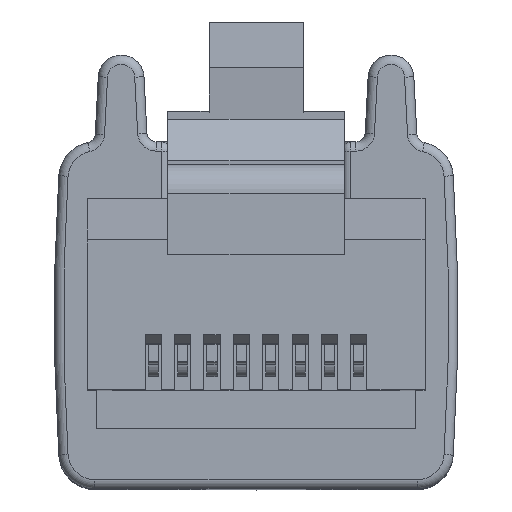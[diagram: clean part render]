
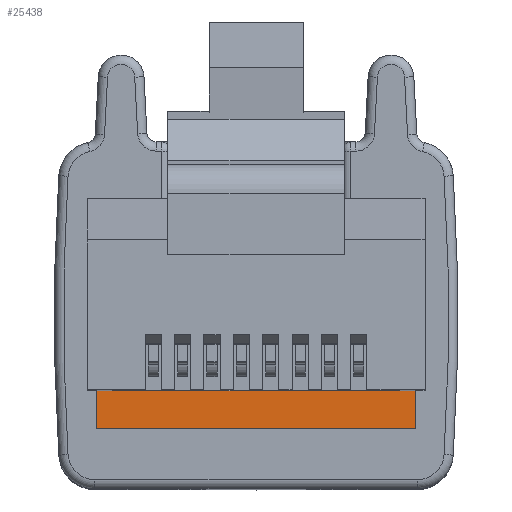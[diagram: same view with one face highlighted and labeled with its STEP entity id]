
A CAD part, top view. The second image highlights one B-rep face of the part: STEP entity #25438.
In plain terms, the highlighted planar face has unit normal (0, 0, 1).
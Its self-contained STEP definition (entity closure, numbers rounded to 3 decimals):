
#1759 = CARTESIAN_POINT ( 'NONE',  ( -11.398, -8.219, 10.366 ) ) ;
#1831 = VERTEX_POINT ( 'NONE', #2788 ) ;
#2788 = CARTESIAN_POINT ( 'NONE',  ( -11.398, -6.105, 10.366 ) ) ;
#4128 = VECTOR ( 'NONE', #24303, 1000. ) ;
#4750 = CARTESIAN_POINT ( 'NONE',  ( -0.349, -7.426, 10.366 ) ) ;
#6259 = VERTEX_POINT ( 'NONE', #15903 ) ;
#7314 = PLANE ( 'NONE',  #9666 ) ;
#7410 = VECTOR ( 'NONE', #9139, 1000. ) ;
#8221 = VERTEX_POINT ( 'NONE', #20437 ) ;
#8459 = VERTEX_POINT ( 'NONE', #22027 ) ;
#9139 = DIRECTION ( 'NONE',  ( -1., 0., 0. ) ) ;
#9626 = LINE ( 'NONE', #19271, #7410 ) ;
#9666 = AXIS2_PLACEMENT_3D ( 'NONE', #13295, #25736, #21620 ) ;
#11208 = LINE ( 'NONE', #17534, #15349 ) ;
#12737 = EDGE_CURVE ( 'NONE', #6259, #8221, #11208, .T. ) ;
#12982 = EDGE_CURVE ( 'NONE', #8221, #1831, #22384, .T. ) ;
#13295 = CARTESIAN_POINT ( 'NONE',  ( -0.031, -7.426, 10.366 ) ) ;
#13405 = DIRECTION ( 'NONE',  ( -1., 0., 0. ) ) ;
#13816 = ORIENTED_EDGE ( 'NONE', *, *, #12737, .F. ) ;
#15349 = VECTOR ( 'NONE', #13405, 1000. ) ;
#15529 = FACE_OUTER_BOUND ( 'NONE', #16462, .T. ) ;
#15903 = CARTESIAN_POINT ( 'NONE',  ( -0.349, -7.426, 10.366 ) ) ;
#16462 = EDGE_LOOP ( 'NONE', ( #23740, #13816, #22890, #18411 ) ) ;
#16629 = EDGE_CURVE ( 'NONE', #6259, #8459, #18732, .T. ) ;
#17534 = CARTESIAN_POINT ( 'NONE',  ( -0.031, -7.426, 10.366 ) ) ;
#18411 = ORIENTED_EDGE ( 'NONE', *, *, #20944, .T. ) ;
#18732 = LINE ( 'NONE', #4750, #23827 ) ;
#19271 = CARTESIAN_POINT ( 'NONE',  ( -0.031, -6.105, 10.366 ) ) ;
#20437 = CARTESIAN_POINT ( 'NONE',  ( -11.398, -7.426, 10.366 ) ) ;
#20944 = EDGE_CURVE ( 'NONE', #8459, #1831, #9626, .T. ) ;
#21620 = DIRECTION ( 'NONE',  ( -1., 0., 0. ) ) ;
#22027 = CARTESIAN_POINT ( 'NONE',  ( -0.349, -6.105, 10.366 ) ) ;
#22384 = LINE ( 'NONE', #1759, #4128 ) ;
#22890 = ORIENTED_EDGE ( 'NONE', *, *, #16629, .T. ) ;
#23740 = ORIENTED_EDGE ( 'NONE', *, *, #12982, .F. ) ;
#23827 = VECTOR ( 'NONE', #25144, 1000. ) ;
#24303 = DIRECTION ( 'NONE',  ( 0., 1., 0. ) ) ;
#25144 = DIRECTION ( 'NONE',  ( 0., 1., 0. ) ) ;
#25438 = ADVANCED_FACE ( 'NONE', ( #15529 ), #7314, .T. ) ;
#25736 = DIRECTION ( 'NONE',  ( 0., 0., 1. ) ) ;
